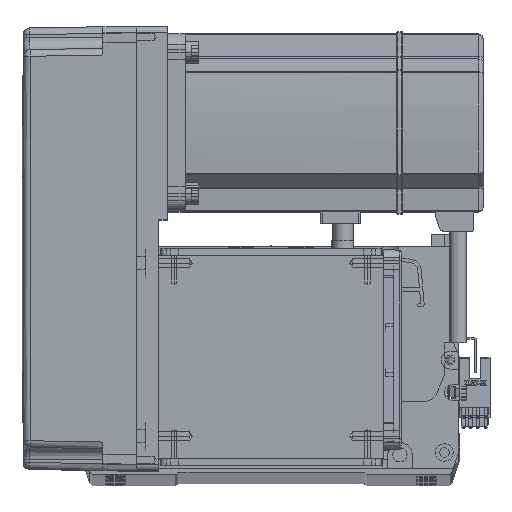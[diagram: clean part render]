
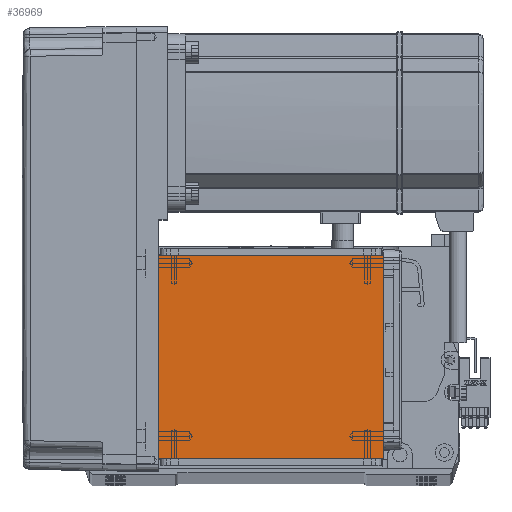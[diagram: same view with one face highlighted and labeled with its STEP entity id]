
A CAD part, top view. The second image highlights one B-rep face of the part: STEP entity #36969.
In plain terms, the highlighted planar face has unit normal (0, 0, 1).
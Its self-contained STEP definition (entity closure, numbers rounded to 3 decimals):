
#2261 = LINE ( 'NONE', #43060, #47003 ) ;
#2449 = EDGE_CURVE ( 'NONE', #40149, #22754, #2261, .T. ) ;
#4435 = DIRECTION ( 'NONE',  ( 0., 0., 1. ) ) ;
#8573 = VECTOR ( 'NONE', #65175, 1000. ) ;
#13193 = AXIS2_PLACEMENT_3D ( 'NONE', #28280, #4435, #54880 ) ;
#16722 = ORIENTED_EDGE ( 'NONE', *, *, #57956, .F. ) ;
#17363 = DIRECTION ( 'NONE',  ( 0., -1., 0. ) ) ;
#19291 = ORIENTED_EDGE ( 'NONE', *, *, #2449, .T. ) ;
#19709 = LINE ( 'NONE', #46359, #44939 ) ;
#22754 = VERTEX_POINT ( 'NONE', #45606 ) ;
#23211 = CARTESIAN_POINT ( 'NONE',  ( 50.5, 111.5, 115. ) ) ;
#24178 = LINE ( 'NONE', #44327, #8573 ) ;
#28280 = CARTESIAN_POINT ( 'NONE',  ( 0., 0., 115. ) ) ;
#32768 = ORIENTED_EDGE ( 'NONE', *, *, #44870, .T. ) ;
#33212 = EDGE_LOOP ( 'NONE', ( #56042, #19291, #16722, #32768 ) ) ;
#35397 = CARTESIAN_POINT ( 'NONE',  ( 50.5, 20., 115. ) ) ;
#36969 = ADVANCED_FACE ( 'NONE', ( #46473 ), #43011, .T. ) ;
#40149 = VERTEX_POINT ( 'NONE', #42266 ) ;
#40861 = DIRECTION ( 'NONE',  ( -1., 0., 0. ) ) ;
#41155 = DIRECTION ( 'NONE',  ( 1., 0., 0. ) ) ;
#42266 = CARTESIAN_POINT ( 'NONE',  ( -50.5, 111.5, 115. ) ) ;
#42578 = VERTEX_POINT ( 'NONE', #23211 ) ;
#43011 = PLANE ( 'NONE',  #13193 ) ;
#43060 = CARTESIAN_POINT ( 'NONE',  ( -50.5, 122., 115. ) ) ;
#44327 = CARTESIAN_POINT ( 'NONE',  ( 50.5, 122., 115. ) ) ;
#44870 = EDGE_CURVE ( 'NONE', #50792, #42578, #24178, .T. ) ;
#44939 = VECTOR ( 'NONE', #40861, 1000. ) ;
#45606 = CARTESIAN_POINT ( 'NONE',  ( -50.5, 20., 115. ) ) ;
#45948 = LINE ( 'NONE', #50216, #63240 ) ;
#46359 = CARTESIAN_POINT ( 'NONE',  ( -70.004, 20., 115. ) ) ;
#46473 = FACE_OUTER_BOUND ( 'NONE', #33212, .T. ) ;
#47003 = VECTOR ( 'NONE', #17363, 1000. ) ;
#50216 = CARTESIAN_POINT ( 'NONE',  ( -70.004, 111.5, 115. ) ) ;
#50792 = VERTEX_POINT ( 'NONE', #35397 ) ;
#52772 = EDGE_CURVE ( 'NONE', #40149, #42578, #45948, .T. ) ;
#54880 = DIRECTION ( 'NONE',  ( 1., 0., 0. ) ) ;
#56042 = ORIENTED_EDGE ( 'NONE', *, *, #52772, .F. ) ;
#57956 = EDGE_CURVE ( 'NONE', #50792, #22754, #19709, .T. ) ;
#63240 = VECTOR ( 'NONE', #41155, 1000. ) ;
#65175 = DIRECTION ( 'NONE',  ( 0., 1., 0. ) ) ;
